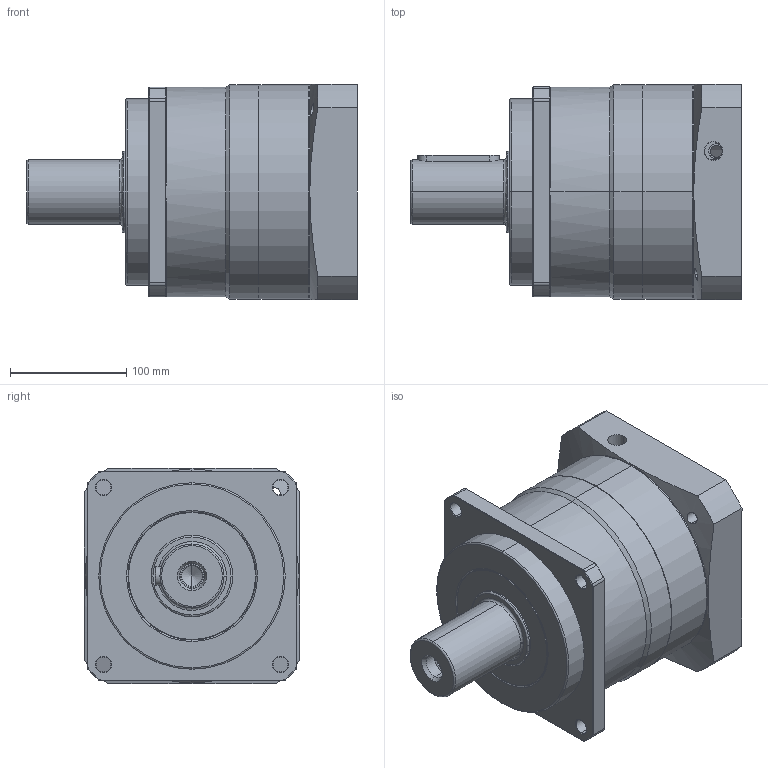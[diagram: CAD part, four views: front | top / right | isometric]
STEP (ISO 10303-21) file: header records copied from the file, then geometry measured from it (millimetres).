
FILE_DESCRIPTION (( 'STEP AP214' ), '1' );
FILE_NAME ('VRB180-L1-S2-P1 35-114.3-200-M12.STEP', '2019-10-31T08:26:26', ( '微软用户' ), ( '微软中国' ), 'SwSTEP 2.0', 'SolidWorks 2014', '' );
FILE_SCHEMA (( 'AUTOMOTIVE_DESIGN' ));
Length unit declared in the file: millimetre
Products named in the file (2): VRB180-L1-S2-P1 35-114.3-200-M12
Bounding box: 284 x 185 x 185 mm (x, y, z)
Volume: 3290824.4 mm3; surface area: 490482.3 mm2
Topology: 6 solids, 6 shells, 1081 faces, 2904 edges, 1876 vertices
Faces by surface type: plane 649, cylinder 213, cone 110, bspline 60, torus 49
Entity records: 46348 total; most frequent: CARTESIAN_POINT 11509, ORIENTED_EDGE 5744, DIRECTION 5302, EDGE_CURVE 2872, LINE 2078, VECTOR 2078, VERTEX_POINT 1876, AXIS2_PLACEMENT_3D 1612
